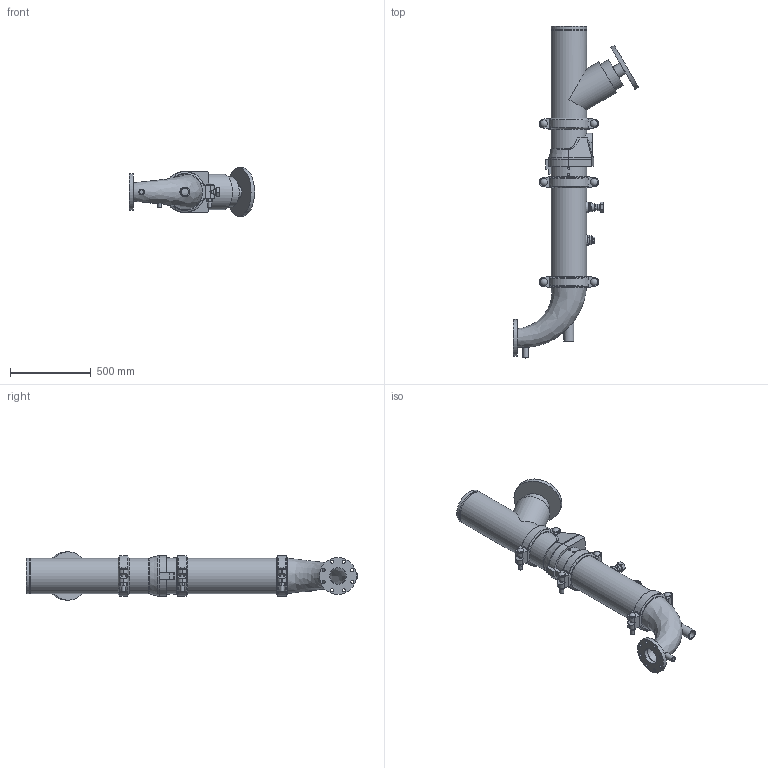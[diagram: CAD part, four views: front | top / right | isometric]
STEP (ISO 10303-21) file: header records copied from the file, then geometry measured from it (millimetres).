
FILE_DESCRIPTION(/* description */ ('VIC DVI PUMP DROP HORZ S/383 (OGSxFLG) (S/924-1.25)','CAx-IF Rec.Pracs.---Representation and Presentation of Product Manufacturing Information (PMI)---4.0---2014-10-13'),/* implementation_level */ '2;1');
FILE_NAME(/* name */ 'C:\Users\kkamble\AppData\Roaming\Autodesk\ApplicationPlugins\Victaulic.Temp\A821\CL 150_Series 383 (OGSxFLG)_924 (1.25)_08.0x04.0 (200x100).stp',/* time_stamp */ '2022-03-16T18:46:42+05:00',/* author */ ('kkamble'),/* organization */ ('Victaulic'),/* preprocessor_version */ 'ST-DEVELOPER v17.2',/* originating_system */ 'Autodesk Inventor 2019',/* authorisation */ '');
FILE_SCHEMA (('AP242_MANAGED_MODEL_BASED_3D_ENGINEERING_MIM_LF { 1 0 10303 442 1 1 4 }'));
Length unit declared in the file: inch
Products named in the file (8): 383_924 (1.25)-08.0x04.0; Pipe-08.0; 789-08.0; 177N-08.0; 779-08.0; 924-04.0x01.25; 923-04.0x0.75; R100F-08.0x04.0
Assembly tree (9 placements, depth 2):
  383_924 (1.25)-08.0x04.0
    177N-08.0  x3
    Pipe-08.0
    789-08.0
    779-08.0
    924-04.0x01.25
    923-04.0x0.75
    R100F-08.0x04.0
Bounding box: 774.7 x 2054.35 x 299.97 mm (x, y, z)
Volume: 28453172.5 mm3; surface area: 3877886.2 mm2
Topology: 9 solids, 10 shells, 531 faces, 1387 edges, 932 vertices
Faces by surface type: plane 307, cylinder 177, torus 18, cone 17, sphere 6, bspline 6
Full cylindrical faces by diameter (mm): 13.716 x4, 19.05 x8, 21.336 x1, 23.774 x6, 26.67 x3, 34.29 x1, 38.608 x1, 42.164 x1, 42.85 x6, 45.974 x4, 48.26 x1, 48.514 x1, 55.626 x2, 60.96 x1, 76.2 x1, 102.26 x1, 183.515 x1, 202.717 x4, 206.375 x3, 214.401 x7, 219.075 x18, 228.6 x1, 299.974 x1
Entity records: 12953 total; most frequent: CARTESIAN_POINT 3606, DIRECTION 1908, ORIENTED_EDGE 1754, EDGE_CURVE 877, AXIS2_PLACEMENT_3D 732, VERTEX_POINT 596, LINE 444, VECTOR 444
